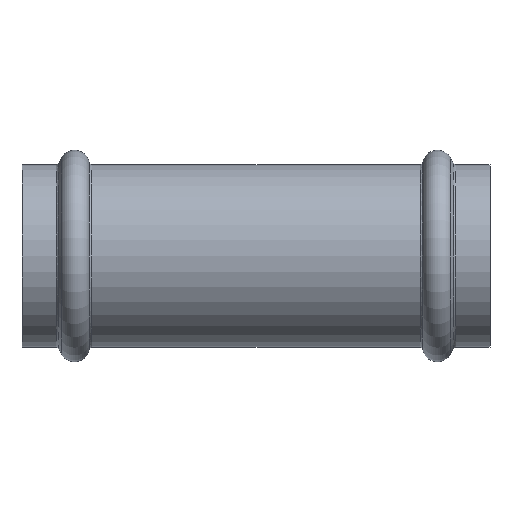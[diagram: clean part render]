
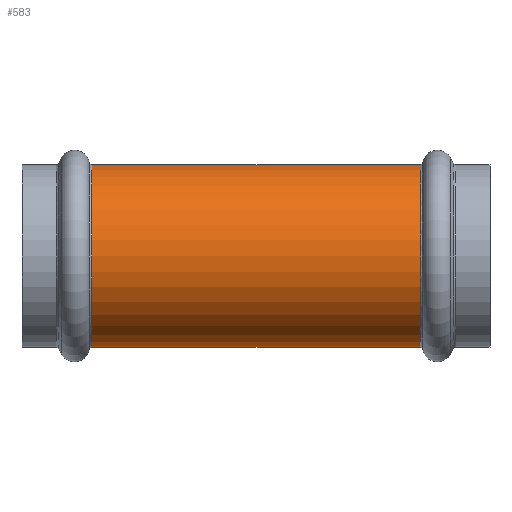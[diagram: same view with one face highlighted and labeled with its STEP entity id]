
A CAD part, front view. The second image highlights one B-rep face of the part: STEP entity #583.
In plain terms, the highlighted cylindrical face has radius 19.125 mm (diameter 38.25 mm), a full revolution.
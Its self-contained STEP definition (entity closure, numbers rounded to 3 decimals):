
#541=CARTESIAN_POINT('',(-14.554,19.125,0.));
#542=VERTEX_POINT('',#541);
#543=CARTESIAN_POINT('',(-14.554,0.,0.0));
#544=DIRECTION('',(1.0,0.0,0.0));
#545=DIRECTION('',(0.0,-1.0,0.0));
#546=AXIS2_PLACEMENT_3D('',#543,#544,#545);
#547=CIRCLE('',#546,19.125);
#548=EDGE_CURVE('',#542,#542,#547,.T.);
#564=CARTESIAN_POINT('',(-49.,0.,0.0));
#565=DIRECTION('',(1.0,0.,0.0));
#566=DIRECTION('',(0.0,1.0,0.0));
#567=AXIS2_PLACEMENT_3D('',#564,#565,#566);
#568=CYLINDRICAL_SURFACE('',#567,19.125);
#569=CARTESIAN_POINT('',(-83.446,19.125,0.));
#570=VERTEX_POINT('',#569);
#571=CARTESIAN_POINT('',(-83.446,0.,0.0));
#572=DIRECTION('',(-1.0,0.0,0.0));
#573=DIRECTION('',(0.0,-1.0,0.0));
#574=AXIS2_PLACEMENT_3D('',#571,#572,#573);
#575=CIRCLE('',#574,19.125);
#576=EDGE_CURVE('',#570,#570,#575,.T.);
#577=ORIENTED_EDGE('',*,*,#576,.F.);
#578=EDGE_LOOP('',(#577));
#579=FACE_OUTER_BOUND('',#578,.T.);
#580=ORIENTED_EDGE('',*,*,#548,.F.);
#581=EDGE_LOOP('',(#580));
#582=FACE_BOUND('',#581,.T.);
#583=ADVANCED_FACE('',(#579,#582),#568,.T.);
